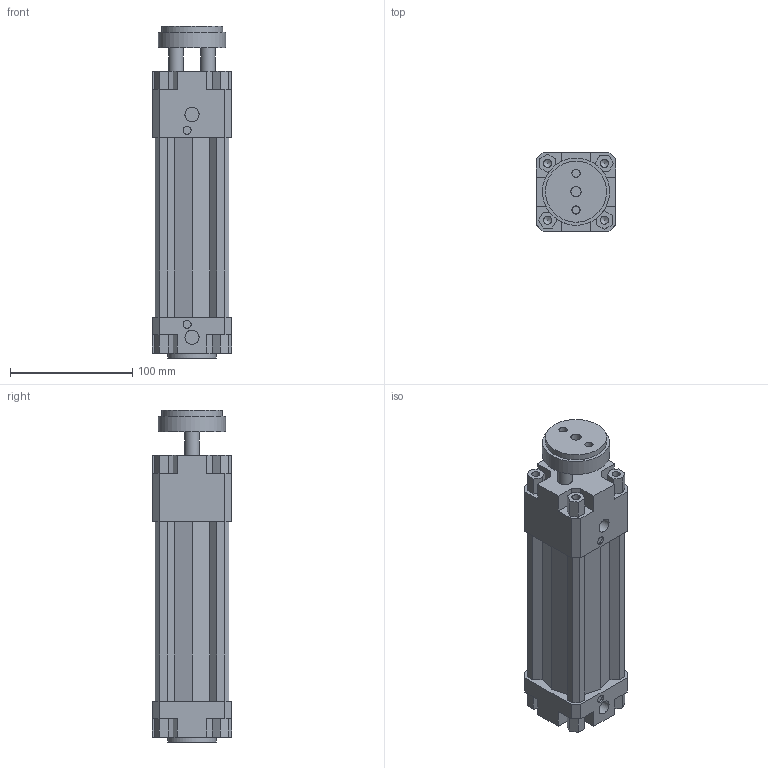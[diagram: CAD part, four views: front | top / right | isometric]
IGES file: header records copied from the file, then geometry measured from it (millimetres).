
Global section: file name: 134#_050_0100_01; native system: Autodesk Inventor 2014; preprocessor: unknown; author: A. Manieri; date: 20161006.164329; units: millimetre
Bounding box: 65 x 65 x 272 mm (x, y, z)
Volume: 635569.2 mm3; surface area: 142633.2 mm2
Topology: 2 solids, 2 shells, 180 faces, 492 edges, 336 vertices
Faces by surface type: bspline 180
